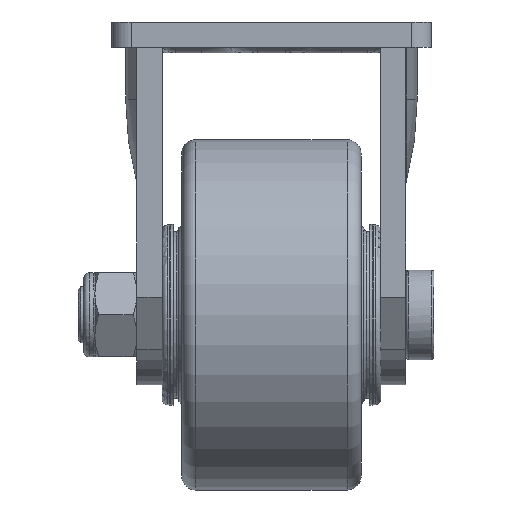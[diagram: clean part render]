
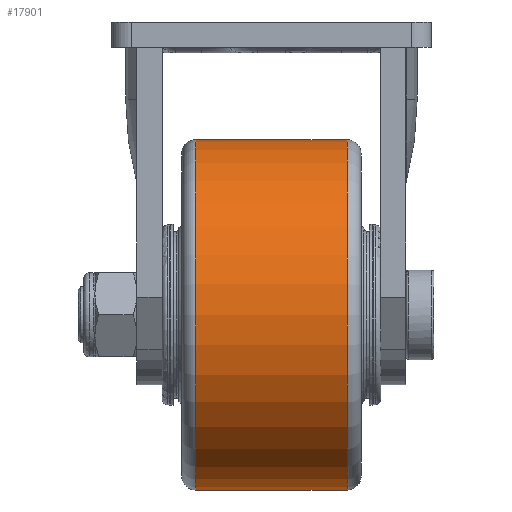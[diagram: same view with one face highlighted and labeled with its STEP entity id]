
A CAD part, left-side view. The second image highlights one B-rep face of the part: STEP entity #17901.
In plain terms, the highlighted cylindrical face has radius 62.5 mm (diameter 125 mm), a full revolution.
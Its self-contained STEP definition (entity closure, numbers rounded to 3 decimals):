
#3975=CYLINDRICAL_SURFACE('',#18971,62.5);
#4587=FACE_BOUND('',#5786,.T.);
#4737=FACE_OUTER_BOUND('',#5785,.T.);
#5785=EDGE_LOOP('',(#12262));
#5786=EDGE_LOOP('',(#12263));
#6970=CIRCLE('',#18970,62.5);
#6971=CIRCLE('',#18972,62.5);
#7593=VERTEX_POINT('',#24134);
#7594=VERTEX_POINT('',#24137);
#9450=EDGE_CURVE('',#7593,#7593,#6970,.T.);
#9451=EDGE_CURVE('',#7594,#7594,#6971,.T.);
#12262=ORIENTED_EDGE('',*,*,#9450,.T.);
#12263=ORIENTED_EDGE('',*,*,#9451,.F.);
#17901=ADVANCED_FACE('',(#4737,#4587),#3975,.T.);
#18970=AXIS2_PLACEMENT_3D('',#24135,#20249,#20250);
#18971=AXIS2_PLACEMENT_3D('',#24136,#20251,#20252);
#18972=AXIS2_PLACEMENT_3D('',#24138,#20253,#20254);
#20249=DIRECTION('center_axis',(0.,-1.,0.));
#20250=DIRECTION('ref_axis',(1.,0.,0.));
#20251=DIRECTION('center_axis',(0.,-1.,0.));
#20252=DIRECTION('ref_axis',(0.,0.,
-1.));
#20253=DIRECTION('center_axis',(0.,-1.,0.));
#20254=DIRECTION('ref_axis',(1.,0.,0.));
#24134=CARTESIAN_POINT('',(-1.,27.,-162.5));
#24135=CARTESIAN_POINT('Origin',(-1.,27.,-100.));
#24136=CARTESIAN_POINT('Origin',(-1.,0.,
-100.));
#24137=CARTESIAN_POINT('',(-1.,-27.,-162.5));
#24138=CARTESIAN_POINT('Origin',(-1.,-27.,-100.));
